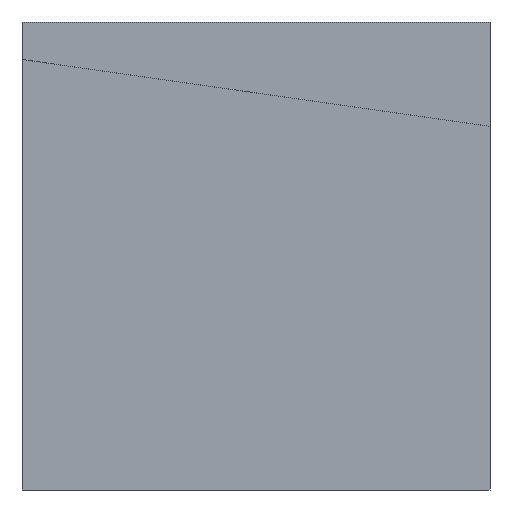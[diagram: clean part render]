
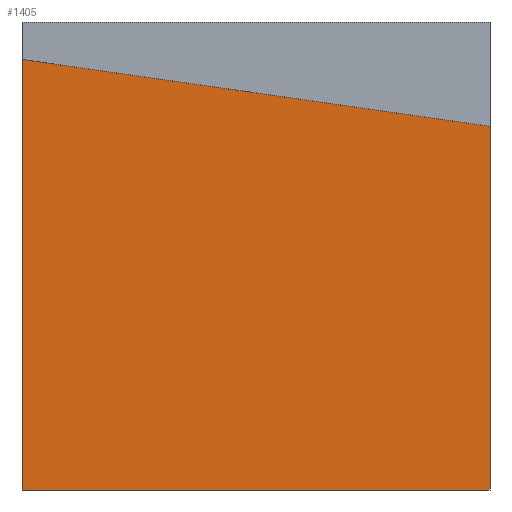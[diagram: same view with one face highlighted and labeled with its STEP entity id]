
A CAD part, front view. The second image highlights one B-rep face of the part: STEP entity #1405.
In plain terms, the highlighted planar face has unit normal (0, -1, 0).
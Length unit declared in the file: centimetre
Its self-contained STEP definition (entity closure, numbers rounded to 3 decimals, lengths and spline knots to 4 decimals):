
#1 = VERTEX_POINT ( 'NONE', #1745 ) ;
#43 = DIRECTION ( 'NONE',  ( 0., 0., 1. ) ) ;
#62 = DIRECTION ( 'NONE',  ( 0., 0., -1. ) ) ;
#147 = CARTESIAN_POINT ( 'NONE',  ( 0., 0., 0. ) ) ;
#231 = DIRECTION ( 'NONE',  ( 0.99, 0., -0.142 ) ) ;
#318 = VECTOR ( 'NONE', #430, 100. ) ;
#359 = AXIS2_PLACEMENT_3D ( 'NONE', #427, #407, #43 ) ;
#378 = ORIENTED_EDGE ( 'NONE', *, *, #1409, .F. ) ;
#407 = DIRECTION ( 'NONE',  ( 0., 1., 0. ) ) ;
#427 = CARTESIAN_POINT ( 'NONE',  ( 0., 0., 1000. ) ) ;
#430 = DIRECTION ( 'NONE',  ( 0., 0., -1. ) ) ;
#624 = CARTESIAN_POINT ( 'NONE',  ( 0., 0., 0. ) ) ;
#657 = ORIENTED_EDGE ( 'NONE', *, *, #725, .T. ) ;
#710 = ORIENTED_EDGE ( 'NONE', *, *, #1809, .F. ) ;
#725 = EDGE_CURVE ( 'NONE', #1198, #1066, #1449, .T. ) ;
#753 = LINE ( 'NONE', #1131, #1290 ) ;
#755 = CARTESIAN_POINT ( 'NONE',  ( 0., 0., 1000. ) ) ;
#788 = CARTESIAN_POINT ( 'NONE',  ( 1000., 0., 1000. ) ) ;
#874 = CARTESIAN_POINT ( 'NONE',  ( 1000., 0., 776.8978 ) ) ;
#944 = FACE_OUTER_BOUND ( 'NONE', #1623, .T. ) ;
#994 = DIRECTION ( 'NONE',  ( 1., 0., 0. ) ) ;
#1066 = VERTEX_POINT ( 'NONE', #147 ) ;
#1131 = CARTESIAN_POINT ( 'NONE',  ( 1000., 0., 776.8978 ) ) ;
#1198 = VERTEX_POINT ( 'NONE', #2307 ) ;
#1284 = PLANE ( 'NONE',  #359 ) ;
#1290 = VECTOR ( 'NONE', #231, 100. ) ;
#1405 = ADVANCED_FACE ( 'NONE', ( #944 ), #1284, .F. ) ;
#1409 = EDGE_CURVE ( 'NONE', #1198, #2202, #753, .T. ) ;
#1449 = LINE ( 'NONE', #755, #1591 ) ;
#1494 = LINE ( 'NONE', #788, #318 ) ;
#1591 = VECTOR ( 'NONE', #62, 100. ) ;
#1623 = EDGE_LOOP ( 'NONE', ( #710, #378, #657, #1863 ) ) ;
#1669 = VECTOR ( 'NONE', #994, 100. ) ;
#1736 = EDGE_CURVE ( 'NONE', #1066, #1, #2033, .T. ) ;
#1745 = CARTESIAN_POINT ( 'NONE',  ( 1000., 0., 0. ) ) ;
#1809 = EDGE_CURVE ( 'NONE', #2202, #1, #1494, .T. ) ;
#1863 = ORIENTED_EDGE ( 'NONE', *, *, #1736, .T. ) ;
#2033 = LINE ( 'NONE', #624, #1669 ) ;
#2202 = VERTEX_POINT ( 'NONE', #874 ) ;
#2307 = CARTESIAN_POINT ( 'NONE',  ( 0., 0., 919.8985 ) ) ;
